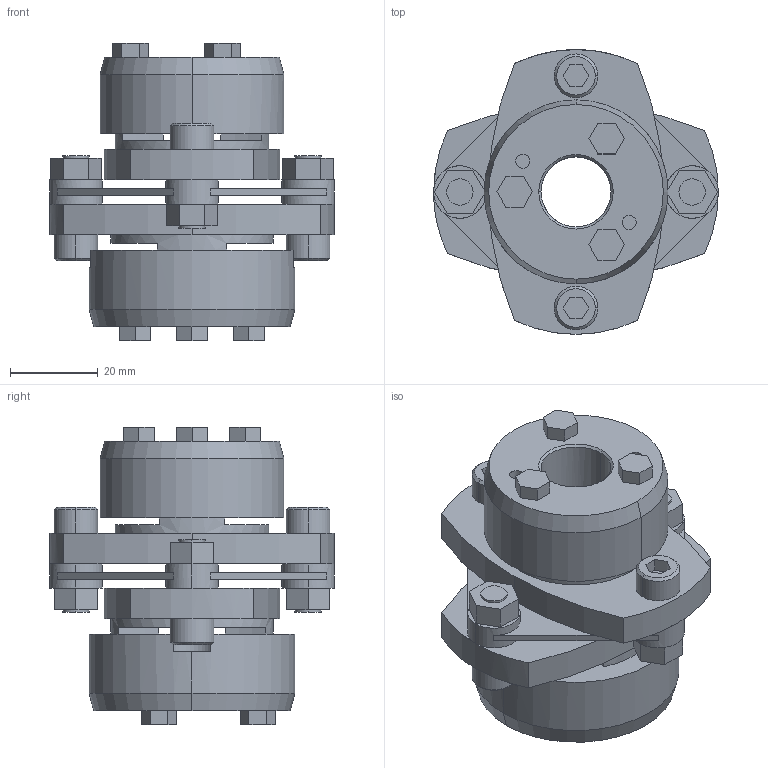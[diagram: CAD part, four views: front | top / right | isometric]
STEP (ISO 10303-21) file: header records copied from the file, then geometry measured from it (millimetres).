
FILE_DESCRIPTION((''),'2;1');
FILE_NAME('LCS-65T7-16×18.stp','2011-08-23T13:10:53',(''),(''),'AutoCAD STEP 2000i','AutoCAD 2000i',', , ');
FILE_SCHEMA(('CONFIG_CONTROL_DESIGN'));
Length unit declared in the file: millimetre
Products named in the file (6): LCS-65T7-15×17; 忣兜1; LC65T7-T017; LC65T7-T015-1; LC65T7-T015; LCS65-ITA
Assembly tree (5 placements, depth 2):
  LCS-65T7-15×17
    忣兜1
    LC65T7-T017
    LC65T7-T015-1
    LC65T7-T015
    LCS65-ITA
Bounding box: 65 x 65 x 67.9 mm (x, y, z)
Volume: 86606.5 mm3; surface area: 29178.8 mm2
Topology: 1 solids, 1 shells, 224 faces, 575 edges, 375 vertices
Faces by surface type: plane 134, cylinder 70, cone 20
Entity records: 7023 total; most frequent: DIRECTION 1238, CARTESIAN_POINT 1180, ORIENTED_EDGE 1150, EDGE_CURVE 575, AXIS2_PLACEMENT_3D 433, VERTEX_POINT 375, VECTOR 372, LINE 372
